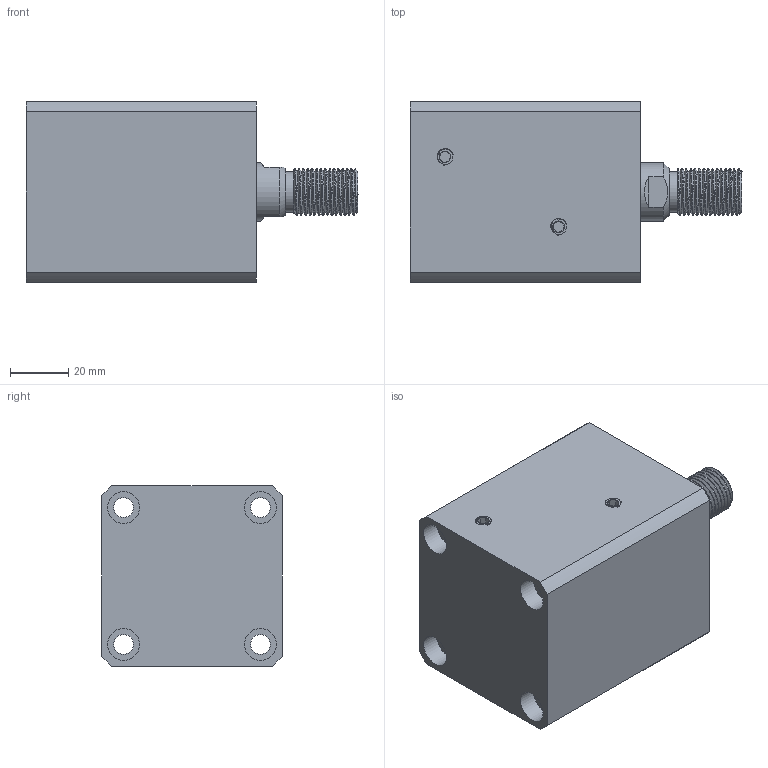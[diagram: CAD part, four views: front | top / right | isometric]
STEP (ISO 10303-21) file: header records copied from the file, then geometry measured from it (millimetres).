
FILE_DESCRIPTION(/* description */ (''),/* implementation_level */ '2;1');
FILE_NAME(/* name */ 'CHTB-sdma32x25w.stp',/* time_stamp */ '2022-04-29T17:09:50+08:00',/* author */ (''),/* organization */ (''),/* preprocessor_version */ 'ST-DEVELOPER v16.7',/* originating_system */ 'SIEMENS PLM Software NX 12.0',/* authorisation */ '');
FILE_SCHEMA (('AUTOMOTIVE_DESIGN { 1 0 10303 214 3 1 1 1 }'));
Length unit declared in the file: millimetre
Products named in the file (1): CHTB-sdma32x25w
Bounding box: 114 x 62 x 62 mm (x, y, z)
Volume: 279307.5 mm3; surface area: 62402.5 mm2
Topology: 5 solids, 5 shells, 576 faces, 1587 edges, 1069 vertices
Faces by surface type: plane 330, extrusion 117, cylinder 63, bspline 42, cone 12, torus 12
Full cylindrical faces by diameter (mm): 3 x2, 4 x4, 6.8 x4, 9 x2, 11 x8, 14 x1, 20 x2, 24.5 x1, 26 x2, 32 x4, 40 x1
Entity records: 35768 total; most frequent: CARTESIAN_POINT 19522, ORIENTED_EDGE 3036, DIRECTION 2115, EDGE_CURVE 1518, VERTEX_POINT 1048, VECTOR 1041, LINE 924, EDGE_LOOP 688
